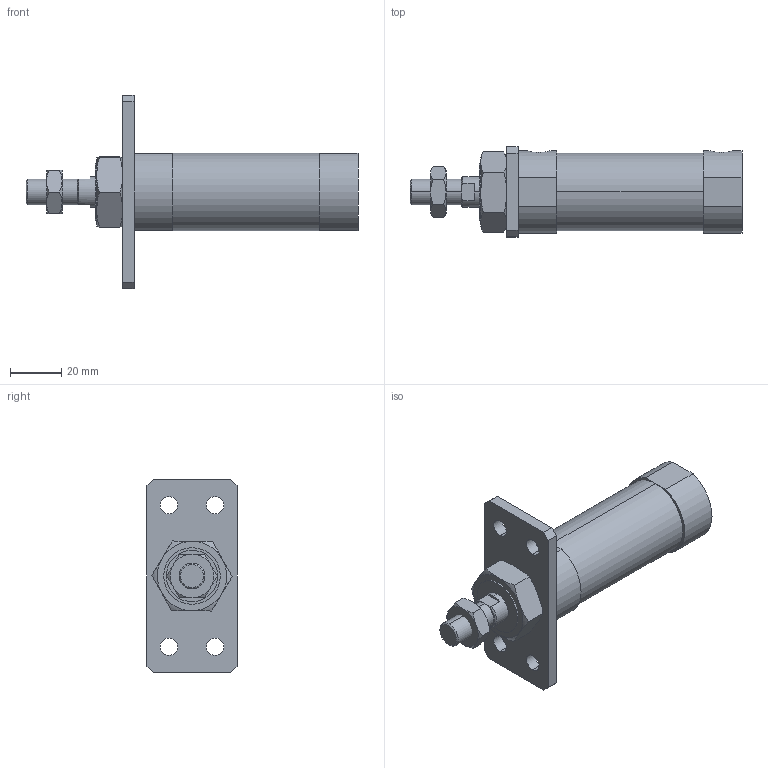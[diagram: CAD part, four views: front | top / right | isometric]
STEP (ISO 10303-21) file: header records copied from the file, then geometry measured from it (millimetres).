
FILE_DESCRIPTION (( 'STEP AP203' ), '1' );
FILE_NAME ('JGND2-25-25-A.STEP', '2016-08-04T02:34:25', ( '' ), ( '' ), 'SwSTEP 2.0', 'SolidWorks 2014', '' );
FILE_SCHEMA (( 'CONFIG_CONTROL_DESIGN' ));
Length unit declared in the file: millimetre
Products named in the file (5): J#2-25-A; J#2-25-25(P); JGND2-25-25-A
Assembly tree (4 placements, depth 2):
  JGND2-25-25-A
    J#2-25-25(P)
    (unnamed)
    (unnamed)
    J#2-25-A
Bounding box: 129 x 35 x 75 mm (x, y, z)
Volume: 82784.4 mm3; surface area: 22054.5 mm2
Topology: 4 solids, 4 shells, 109 faces, 252 edges, 152 vertices
Faces by surface type: plane 45, cylinder 32, torus 24, cone 8
Entity records: 3913 total; most frequent: CARTESIAN_POINT 956, DIRECTION 516, ORIENTED_EDGE 496, EDGE_CURVE 248, AXIS2_PLACEMENT_3D 208, VERTEX_POINT 152, EDGE_LOOP 128, FACE_OUTER_BOUND 109
